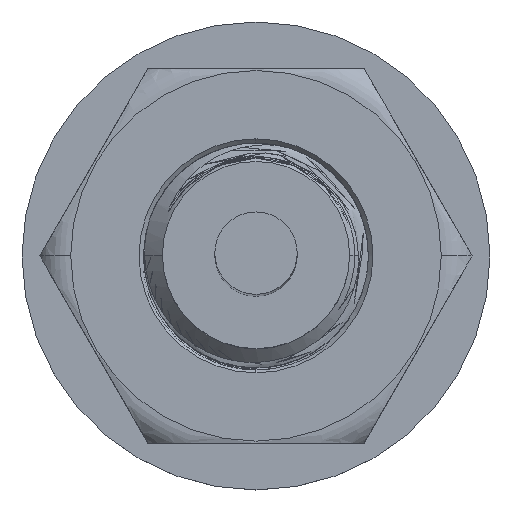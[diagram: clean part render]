
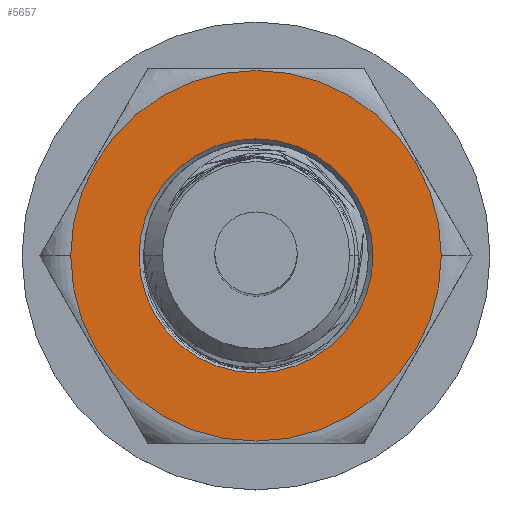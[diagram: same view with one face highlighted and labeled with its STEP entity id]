
A CAD part, top view. The second image highlights one B-rep face of the part: STEP entity #5657.
In plain terms, the highlighted planar face has unit normal (0, 0, 1) as drawn and (0, 1, 0) by its records, which use the part's own axes.
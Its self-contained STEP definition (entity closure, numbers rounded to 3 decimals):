
#468 = VERTEX_POINT ( 'NONE', #7386 ) ;
#593 = CARTESIAN_POINT ( 'NONE',  ( 0., 2.5, -3.125 ) ) ;
#685 = DIRECTION ( 'NONE',  ( 0., 0., 1. ) ) ;
#686 = CIRCLE ( 'NONE', #1109, 3.125 ) ;
#695 = AXIS2_PLACEMENT_3D ( 'NONE', #6557, #5171, #1732 ) ;
#738 = CARTESIAN_POINT ( 'NONE',  ( -4.95, 2.5, 0. ) ) ;
#1109 = AXIS2_PLACEMENT_3D ( 'NONE', #1765, #3825, #4392 ) ;
#1138 = DIRECTION ( 'NONE',  ( 1., 0., 0. ) ) ;
#1185 = DIRECTION ( 'NONE',  ( 0., -1., 0. ) ) ;
#1260 = CIRCLE ( 'NONE', #1541, 3.125 ) ;
#1451 = ORIENTED_EDGE ( 'NONE', *, *, #8544, .F. ) ;
#1541 = AXIS2_PLACEMENT_3D ( 'NONE', #3366, #6081, #685 ) ;
#1628 = ORIENTED_EDGE ( 'NONE', *, *, #6376, .T. ) ;
#1697 = AXIS2_PLACEMENT_3D ( 'NONE', #2620, #8536, #1138 ) ;
#1732 = DIRECTION ( 'NONE',  ( 0., 0., 1. ) ) ;
#1765 = CARTESIAN_POINT ( 'NONE',  ( 0., 2.5, 0. ) ) ;
#1900 = CARTESIAN_POINT ( 'NONE',  ( 0., 2.5, 0. ) ) ;
#2620 = CARTESIAN_POINT ( 'NONE',  ( 0., 2.5, 0. ) ) ;
#2661 = VERTEX_POINT ( 'NONE', #5360 ) ;
#2802 = VERTEX_POINT ( 'NONE', #593 ) ;
#3366 = CARTESIAN_POINT ( 'NONE',  ( 0., 2.5, 0. ) ) ;
#3825 = DIRECTION ( 'NONE',  ( 0., -1., 0. ) ) ;
#3862 = ORIENTED_EDGE ( 'NONE', *, *, #8602, .F. ) ;
#3923 = FACE_OUTER_BOUND ( 'NONE', #6855, .T. ) ;
#4129 = AXIS2_PLACEMENT_3D ( 'NONE', #1900, #1185, #4617 ) ;
#4392 = DIRECTION ( 'NONE',  ( 0., 0., 1. ) ) ;
#4459 = EDGE_CURVE ( 'NONE', #2661, #2802, #686, .T. ) ;
#4617 = DIRECTION ( 'NONE',  ( 1., 0., 0. ) ) ;
#4836 = CIRCLE ( 'NONE', #1697, 4.95 ) ;
#4973 = ORIENTED_EDGE ( 'NONE', *, *, #4459, .T. ) ;
#5171 = DIRECTION ( 'NONE',  ( 0., 1., 0. ) ) ;
#5360 = CARTESIAN_POINT ( 'NONE',  ( 0., 2.5, 3.125 ) ) ;
#5657 = ADVANCED_FACE ( 'NONE', ( #7929, #3923 ), #8690, .T. ) ;
#6081 = DIRECTION ( 'NONE',  ( 0., -1., 0. ) ) ;
#6376 = EDGE_CURVE ( 'NONE', #2802, #2661, #1260, .T. ) ;
#6557 = CARTESIAN_POINT ( 'NONE',  ( 0., 2.5, 0. ) ) ;
#6855 = EDGE_LOOP ( 'NONE', ( #1451, #3862 ) ) ;
#7117 = CIRCLE ( 'NONE', #4129, 4.95 ) ;
#7263 = VERTEX_POINT ( 'NONE', #738 ) ;
#7386 = CARTESIAN_POINT ( 'NONE',  ( 4.95, 2.5, 0. ) ) ;
#7929 = FACE_BOUND ( 'NONE', #8355, .T. ) ;
#8355 = EDGE_LOOP ( 'NONE', ( #4973, #1628 ) ) ;
#8536 = DIRECTION ( 'NONE',  ( 0., -1., 0. ) ) ;
#8544 = EDGE_CURVE ( 'NONE', #468, #7263, #4836, .T. ) ;
#8602 = EDGE_CURVE ( 'NONE', #7263, #468, #7117, .T. ) ;
#8690 = PLANE ( 'NONE',  #695 ) ;
